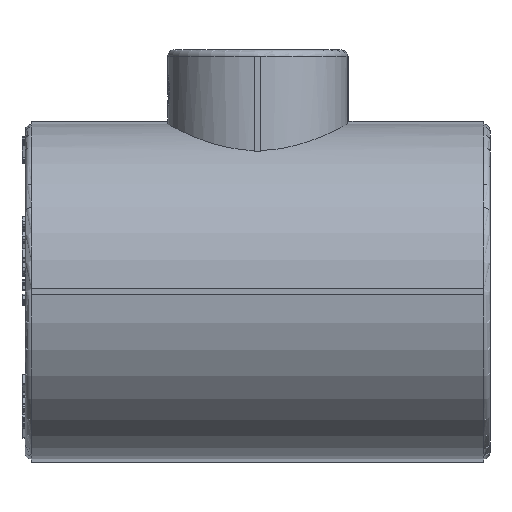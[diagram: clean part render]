
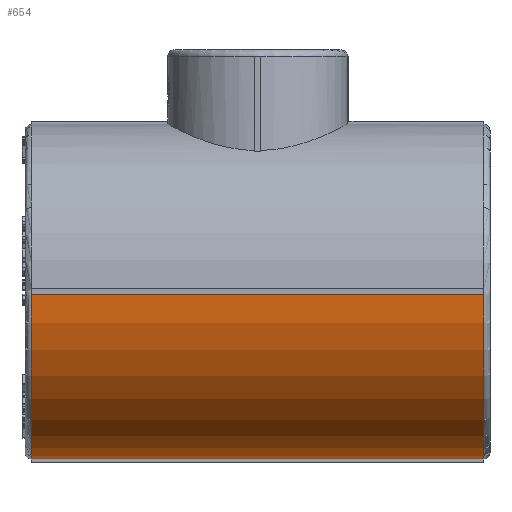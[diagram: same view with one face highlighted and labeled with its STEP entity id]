
A CAD part, left-side view. The second image highlights one B-rep face of the part: STEP entity #654.
In plain terms, the highlighted cylindrical face has radius 27 mm (diameter 54 mm), a partial arc.
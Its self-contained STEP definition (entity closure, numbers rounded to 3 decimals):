
#654=ADVANCED_FACE('',(#5088),#5090,.T.);
#5088=FACE_BOUND('',#5089,.T.);
#5089=EDGE_LOOP('',(#12934,#12935,#12936,#12937));
#5090=CYLINDRICAL_SURFACE('',#5091,27.);
#5091=AXIS2_PLACEMENT_3D('',#5092,#5093,#5094);
#5092=CARTESIAN_POINT('',(0.,-37.5,0.));
#5093=DIRECTION('',(0.,1.,0.));
#5094=DIRECTION('',(-1.,0.,0.));
#12934=ORIENTED_EDGE('',*,*,#18350,.F.);
#12935=ORIENTED_EDGE('',*,*,#18351,.T.);
#12936=ORIENTED_EDGE('',*,*,#18352,.F.);
#12937=ORIENTED_EDGE('',*,*,#18312,.F.);
#18312=EDGE_CURVE('',#22540,#22542,#22543,.T.);
#18350=EDGE_CURVE('',#22610,#22540,#22611,.T.);
#18351=EDGE_CURVE('',#22610,#22612,#22613,.T.);
#18352=EDGE_CURVE('',#22542,#22612,#22614,.F.);
#22540=VERTEX_POINT('',#31077);
#22542=VERTEX_POINT('',#31082);
#22543=CIRCLE('',#31083,27.);
#22610=VERTEX_POINT('',#31474);
#22611=LINE('',#31475,#31476);
#22612=VERTEX_POINT('',#31478);
#22613=CIRCLE('',#31479,27.);
#22614=LINE('',#31483,#31484);
#31077=CARTESIAN_POINT('',(-0.5,36.5,-26.995));
#31082=CARTESIAN_POINT('',(-26.995,36.5,-0.5));
#31083=AXIS2_PLACEMENT_3D('',#31084,#31085,#31086);
#31084=CARTESIAN_POINT('',(0.,36.5,0.));
#31085=DIRECTION('',(0.,1.,0.));
#31086=DIRECTION('',(-0.019,0.,-1.));
#31474=CARTESIAN_POINT('',(-0.5,-36.5,-26.995));
#31475=CARTESIAN_POINT('',(-0.5,-36.5,-26.995));
#31476=VECTOR('',#31477,1.);
#31477=DIRECTION('',(0.,1.,0.));
#31478=CARTESIAN_POINT('',(-26.995,-36.5,-0.5));
#31479=AXIS2_PLACEMENT_3D('',#31480,#31481,#31482);
#31480=CARTESIAN_POINT('',(0.,-36.5,0.));
#31481=DIRECTION('',(0.,1.,0.));
#31482=DIRECTION('',(-0.019,0.,-1.));
#31483=CARTESIAN_POINT('',(-26.995,-36.5,-0.5));
#31484=VECTOR('',#31485,1.);
#31485=DIRECTION('',(0.,1.,0.));
